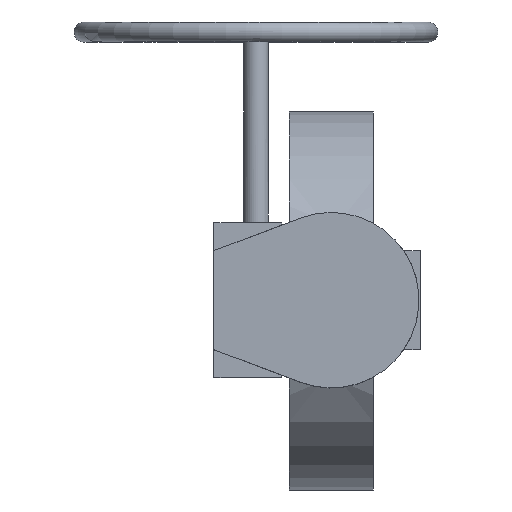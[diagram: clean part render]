
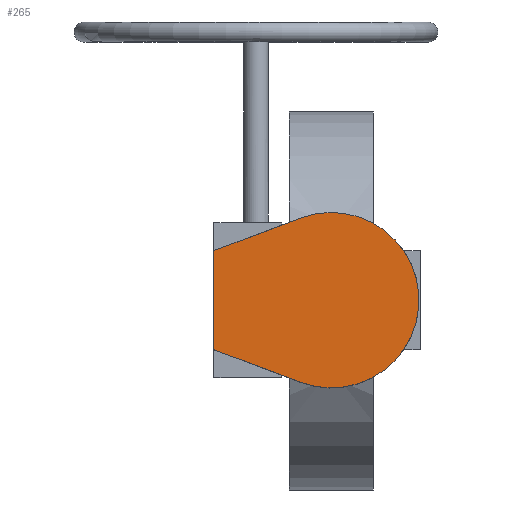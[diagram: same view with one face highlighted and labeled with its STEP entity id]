
A CAD part, top view. The second image highlights one B-rep face of the part: STEP entity #265.
In plain terms, the highlighted planar face has unit normal (0, 0, 1).
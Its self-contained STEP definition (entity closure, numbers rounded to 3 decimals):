
#265=ADVANCED_FACE('',(#7668),#7670,.T.);
#7668=FACE_BOUND('',#7669,.T.);
#7669=EDGE_LOOP('',(#13510,#13511,#13512,#13513));
#7670=PLANE('',#7671);
#7671=AXIS2_PLACEMENT_3D('',#7672,#7673,#7674);
#7672=CARTESIAN_POINT('',(0.,0.,371.));
#7673=DIRECTION('',(0.,0.,1.));
#7674=DIRECTION('',(0.,1.,0.));
#13510=ORIENTED_EDGE('',*,*,#18231,.T.);
#13511=ORIENTED_EDGE('',*,*,#18227,.T.);
#13512=ORIENTED_EDGE('',*,*,#18220,.T.);
#13513=ORIENTED_EDGE('',*,*,#18215,.T.);
#18215=EDGE_CURVE('',#20666,#20664,#20667,.T.);
#18220=EDGE_CURVE('',#20674,#20666,#20675,.T.);
#18227=EDGE_CURVE('',#20687,#20674,#20688,.T.);
#18231=EDGE_CURVE('',#20664,#20687,#20693,.T.);
#20664=VERTEX_POINT('',#24738);
#20666=VERTEX_POINT('',#24742);
#20667=LINE('',#24743,#24744);
#20674=VERTEX_POINT('',#24760);
#20675=LINE('',#24761,#24762);
#20687=VERTEX_POINT('',#24787);
#20688=LINE('',#24788,#24789);
#20693=CIRCLE('',#24801,71.);
#24738=CARTESIAN_POINT('',(-25.099,-66.416,371.));
#24742=CARTESIAN_POINT('',(-95.,-40.,371.));
#24743=CARTESIAN_POINT('',(-95.,-40.,371.));
#24744=VECTOR('',#24745,1.);
#24745=DIRECTION('',(0.935,-0.354,0.));
#24760=CARTESIAN_POINT('',(-95.,40.,371.));
#24761=CARTESIAN_POINT('',(-95.,40.,371.));
#24762=VECTOR('',#24763,1.);
#24763=DIRECTION('',(0.,-1.,0.));
#24787=CARTESIAN_POINT('',(-25.099,66.416,371.));
#24788=CARTESIAN_POINT('',(-25.099,66.416,371.));
#24789=VECTOR('',#24790,1.);
#24790=DIRECTION('',(-0.935,-0.354,0.));
#24801=AXIS2_PLACEMENT_3D('',#24802,#24803,#24804);
#24802=CARTESIAN_POINT('',(0.,0.,371.));
#24803=DIRECTION('',(0.,0.,1.));
#24804=DIRECTION('',(-0.354,-0.935,0.));
